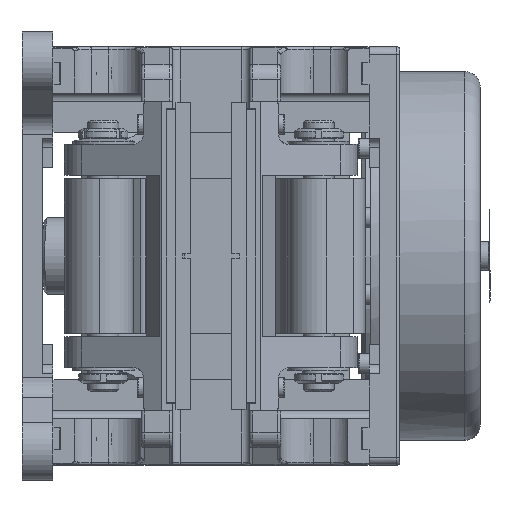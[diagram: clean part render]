
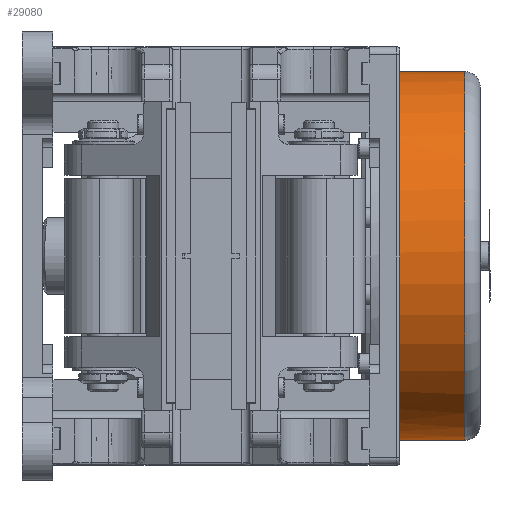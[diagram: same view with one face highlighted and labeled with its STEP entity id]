
A CAD part, front view. The second image highlights one B-rep face of the part: STEP entity #29080.
In plain terms, the highlighted cylindrical face has radius 119 mm (diameter 238 mm), a full revolution.
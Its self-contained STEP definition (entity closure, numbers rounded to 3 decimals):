
#2090=FACE_OUTER_BOUND('',#3709,.T.);
#3709=EDGE_LOOP('',(#18919,#18920,#18921,#18922,#18923,#18924,#18925,#18926,
#18927));
#5517=LINE('',#43279,#7616);
#7616=VECTOR('',#34395,119.);
#9722=CIRCLE('',#30761,119.);
#9723=CIRCLE('',#30762,119.);
#9724=CIRCLE('',#30763,119.);
#9725=CIRCLE('',#30764,119.);
#9760=CIRCLE('',#30829,119.);
#9761=CIRCLE('',#30830,119.);
#9762=CIRCLE('',#30831,119.);
#11381=VERTEX_POINT('',#42831);
#11382=VERTEX_POINT('',#42832);
#11383=VERTEX_POINT('',#42834);
#11384=VERTEX_POINT('',#42836);
#11440=VERTEX_POINT('',#43271);
#11441=VERTEX_POINT('',#43273);
#11442=VERTEX_POINT('',#43275);
#14284=EDGE_CURVE('',#11381,#11382,#9722,.T.);
#14285=EDGE_CURVE('',#11383,#11381,#9723,.T.);
#14286=EDGE_CURVE('',#11384,#11383,#9724,.T.);
#14288=EDGE_CURVE('',#11382,#11384,#9725,.T.);
#14372=EDGE_CURVE('',#11440,#11441,#9760,.T.);
#14373=EDGE_CURVE('',#11441,#11442,#9761,.T.);
#14374=EDGE_CURVE('',#11442,#11440,#9762,.T.);
#14375=EDGE_CURVE('',#11441,#11382,#5517,.T.);
#18919=ORIENTED_EDGE('',*,*,#14374,.F.);
#18920=ORIENTED_EDGE('',*,*,#14373,.F.);
#18921=ORIENTED_EDGE('',*,*,#14375,.T.);
#18922=ORIENTED_EDGE('',*,*,#14288,.T.);
#18923=ORIENTED_EDGE('',*,*,#14286,.T.);
#18924=ORIENTED_EDGE('',*,*,#14285,.T.);
#18925=ORIENTED_EDGE('',*,*,#14284,.T.);
#18926=ORIENTED_EDGE('',*,*,#14375,.F.);
#18927=ORIENTED_EDGE('',*,*,#14372,.F.);
#27123=CYLINDRICAL_SURFACE('',#30832,119.);
#29080=ADVANCED_FACE('',(#2090),#27123,.T.);
#30761=AXIS2_PLACEMENT_3D('',#42833,#34225,#34226);
#30762=AXIS2_PLACEMENT_3D('',#42835,#34227,#34228);
#30763=AXIS2_PLACEMENT_3D('',#42837,#34229,#34230);
#30764=AXIS2_PLACEMENT_3D('',#42839,#34232,#34233);
#30829=AXIS2_PLACEMENT_3D('',#43274,#34387,#34388);
#30830=AXIS2_PLACEMENT_3D('',#43276,#34389,#34390);
#30831=AXIS2_PLACEMENT_3D('',#43277,#34391,#34392);
#30832=AXIS2_PLACEMENT_3D('',#43278,#34393,#34394);
#34225=DIRECTION('center_axis',(1.,0.,0.));
#34226=DIRECTION('ref_axis',(0.,0.782,0.623));
#34227=DIRECTION('center_axis',(1.,0.,0.));
#34228=DIRECTION('ref_axis',(0.,0.782,0.623));
#34229=DIRECTION('center_axis',(1.,0.,0.));
#34230=DIRECTION('ref_axis',(0.,0.782,0.623));
#34232=DIRECTION('center_axis',(1.,0.,0.));
#34233=DIRECTION('ref_axis',(0.,0.782,0.623));
#34387=DIRECTION('center_axis',(1.,0.,0.));
#34388=DIRECTION('ref_axis',(0.,0.782,0.623));
#34389=DIRECTION('center_axis',(1.,0.,0.));
#34390=DIRECTION('ref_axis',(0.,0.782,0.623));
#34391=DIRECTION('center_axis',(1.,0.,0.));
#34392=DIRECTION('ref_axis',(0.,0.782,0.623));
#34393=DIRECTION('center_axis',(1.,0.,0.));
#34394=DIRECTION('ref_axis',(0.,0.782,0.623));
#34395=DIRECTION('',(-1.,0.,0.));
#42831=CARTESIAN_POINT('',(112.1,310.,269.));
#42832=CARTESIAN_POINT('',(112.1,216.962,75.805));
#42833=CARTESIAN_POINT('Origin',(112.1,310.,150.));
#42834=CARTESIAN_POINT('',(112.1,403.038,224.195));
#42835=CARTESIAN_POINT('Origin',(112.1,310.,150.));
#42836=CARTESIAN_POINT('',(112.1,310.,31.));
#42837=CARTESIAN_POINT('Origin',(112.1,310.,150.));
#42839=CARTESIAN_POINT('Origin',(112.1,310.,150.));
#43271=CARTESIAN_POINT('',(163.748,235.805,243.038));
#43273=CARTESIAN_POINT('',(163.748,216.962,75.805));
#43274=CARTESIAN_POINT('Origin',(163.748,310.,150.));
#43275=CARTESIAN_POINT('',(163.748,403.038,224.195));
#43276=CARTESIAN_POINT('Origin',(163.748,310.,150.));
#43277=CARTESIAN_POINT('Origin',(163.748,310.,150.));
#43278=CARTESIAN_POINT('Origin',(137.924,310.,150.));
#43279=CARTESIAN_POINT('',(137.924,216.962,75.805));
